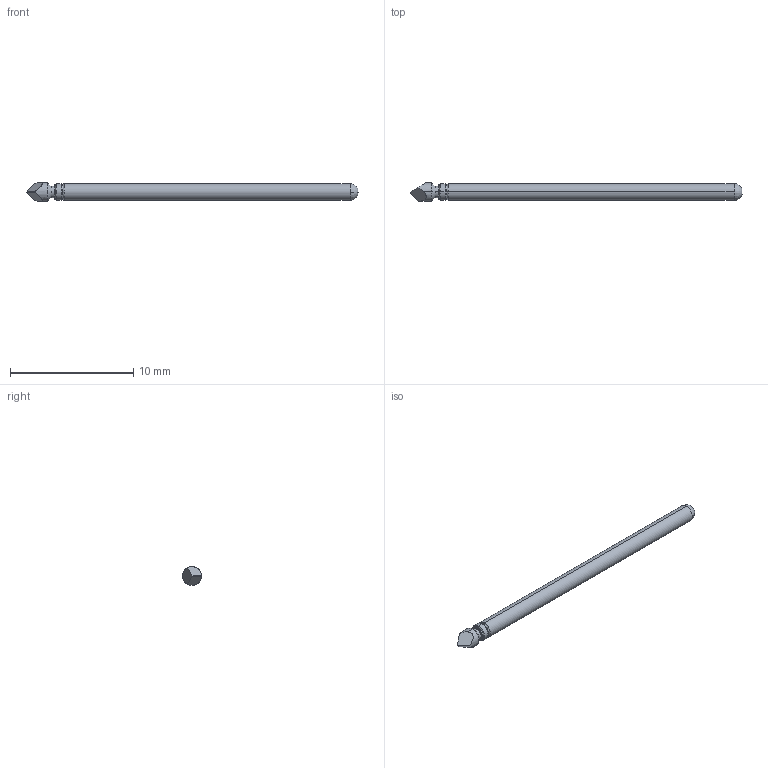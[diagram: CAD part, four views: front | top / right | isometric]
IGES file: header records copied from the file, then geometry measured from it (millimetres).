
Start section: SolidWorks IGES file using analytic representation for surfaces
Global section: file name: Z:\probe solid model mockups\Solidworks models\LTP-25\LTP-25T Full.IGS; native system: SolidWorks 2006 by SolidWorks Corporation; preprocessor: SolidWorks 2006 by SolidWorks Corporation; author: tsakatani; date: 071214.143343; units: inch
Bounding box: 26.92 x 1.52 x 1.52 mm (x, y, z)
Surface area: 116.2 mm2 (no closed solid volume)
Topology: 0 solids, 0 shells, 25 faces, 184 edges, 184 vertices
Faces by surface type: revolution 16, bspline 9
